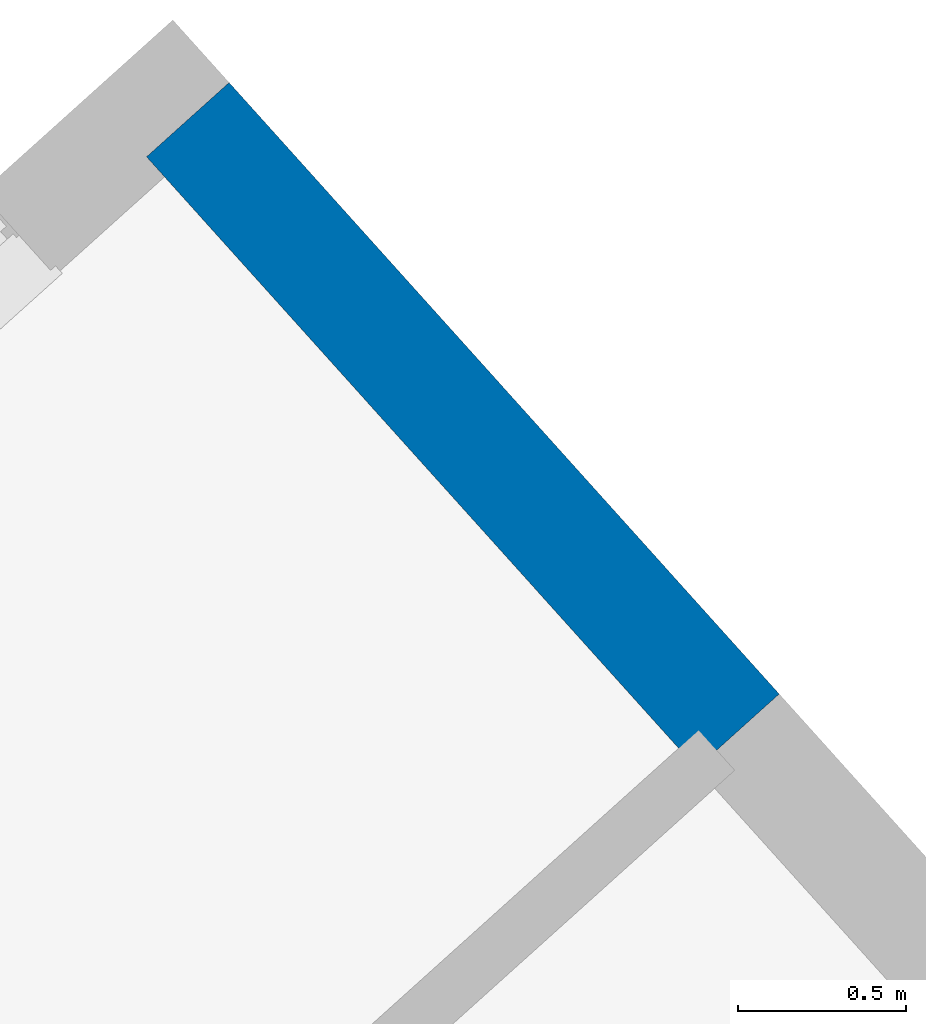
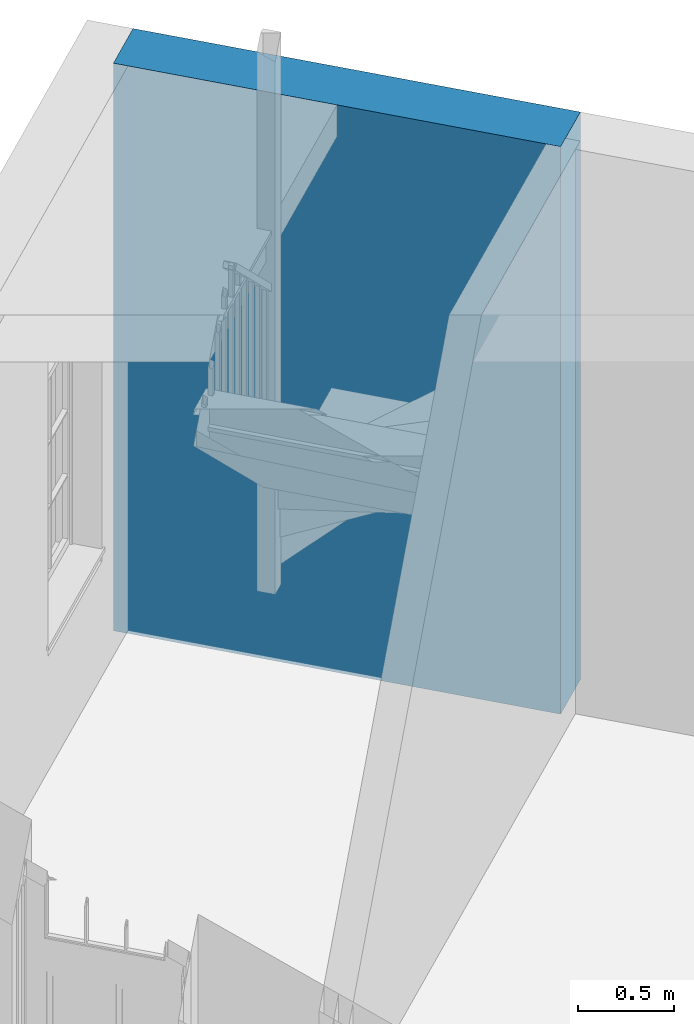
# One storey, part 5 of 6: 1 wall.
"""IFC4 building model written with IfcOpenShell, lengths in metres."""

from ifc_helpers import new_model, si_unit, frame, origin_with_axes, place, context, subcontext, project, spatial, polyline, outline, extrude, material, layer, layer_set, layer_usage, type_object, element, save


model = new_model("IFC4")

# Units and contexts
model_context = context("Model", 3, world=origin_with_axes())
body_context = subcontext(model_context, "Body", "Model", "MODEL_VIEW")
ifc_project = project(units=[si_unit("PLANEANGLEUNIT", "RADIAN"), si_unit("MASSUNIT", "GRAM", prefix="KILO"), si_unit("FORCEUNIT", "NEWTON", prefix="KILO"), si_unit("LENGTHUNIT", "METRE"), si_unit("AREAUNIT", "SQUARE_METRE"), si_unit("VOLUMEUNIT", "CUBIC_METRE")], contexts=[model_context, model_context])

# Sites, building, storey
site_1_placement = place(None, origin_with_axes())
site_1 = spatial("IfcSite", under=ifc_project, at=site_1_placement, Name="Tamar")
site_2_placement = place(site_1_placement, origin_with_axes())
site_2 = spatial("IfcSite", under=site_1, at=site_2_placement, Name="Site plot-6", CompositionType="ELEMENT")
building_placement = place(None, origin_with_axes())
building = spatial("IfcBuilding", under=site_2, at=building_placement, Name="Building plot-6", CompositionType="ELEMENT")
storey_placement = place(None, frame((0.0, 0.0, 24.5), z_axis=(0.0, 0.0, 1.0), x_axis=(1.0, 0.0, 0.0)))
storey = spatial("IfcBuildingStorey", under=building, at=storey_placement, Name="plot-6 0", CompositionType="ELEMENT", Elevation=24.5)

# Wall
ifc_material = material(Name="Masonry")
ifc_layer = layer(ifc_material, 0.33, ventilated=False)
ifc_layer_set = layer_set([ifc_layer], Name="party_0.08_0.25")
ifc_layer_usage = layer_usage(ifc_layer_set, "AXIS2", "POSITIVE", -0.25)
wall_type = type_object("IfcWallType", Name="party_0.08_0.25", PredefinedType="SOLIDWALL", material=ifc_layer_set)
wall_placement = place(storey_placement, frame((238.537720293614, 282.975512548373, 0.0), z_axis=(0.0, 0.0, 1.0), x_axis=(-0.668853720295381, 0.743394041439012, 0.0)))
element("IfcWall", 1, at=wall_placement, inside=storey, type_object=wall_type, material=ifc_layer_usage, Name="party", context=body_context, shape_type="SweptSolid", body=[
    extrude(outline(polyline([(-2.09120248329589e-15, 0.080000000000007), (-6.97909697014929e-15, -0.250000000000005), (2.44393353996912, -0.250000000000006), (2.44393353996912, 0.0800000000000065), (-2.09120248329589e-15, 0.080000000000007)])), origin_with_axes(), (0.0, 0.0, 1.0), 3.6),
])

save(model, "model.ifc")
